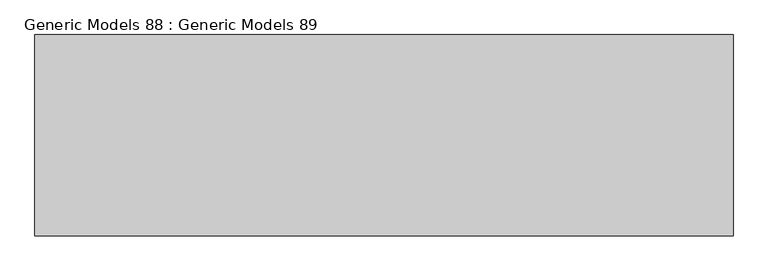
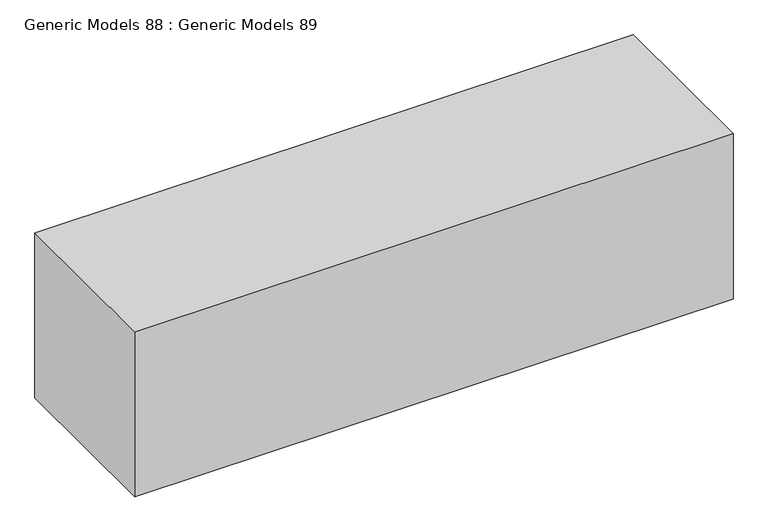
"""IFC4 building model written with IfcOpenShell, lengths in millimetres: proxy geometry, Generic Models 88 : Generic Models 89."""

from ifc_helpers import new_model, si_unit, origin, place, context, project, spatial, faceted_brep, source, transform, mapped, element, save


def generic_models_88_generic_models_89_85bccc3d(model_context):
    return source(origin(), model_context, "Body", "Brep", [
        faceted_brep([(59913.7306909, -9578.2334442, 850.0), (59913.7306909, -9924.5725574, 850.0), (61113.7306909, -9924.5725574, 850.0), (61113.7306909, -9578.2334442, 850.0), (59913.7306909, -9578.2334442, 500.0), (61113.7306909, -9578.2334442, 500.0), (61113.7306909, -9924.5725574, 500.0), (59913.7306909, -9924.5725574, 500.0), (60593.7306909, -9578.2334442, 818.5567437), (60593.7306909, -9578.2334442, 530.1218092), (61082.1518136, -9578.2334442, 530.1218092), (61082.1518136, -9578.2334442, 818.5567437), (59942.8260514, -9578.2334442, 528.3898917), (60573.7306909, -9578.2334442, 528.3898917), (60573.7306909, -9578.2334442, 818.5567437), (59942.8260514, -9578.2334442, 818.5567437), (60597.7306909, -9578.2334442, 814.5567437), (61078.1518136, -9578.2334442, 814.5567437), (61078.1518136, -9578.2334442, 534.1218092), (60597.7306909, -9578.2334442, 534.1218092), (60593.7306909, -9581.2334442, 818.5567437), (61082.1518136, -9581.2334442, 818.5567437), (61082.1518136, -9581.2334442, 530.1218092), (60593.7306909, -9581.2334442, 530.1218092), (60597.7306909, -9581.2334442, 814.5567437), (60597.7306909, -9581.2334442, 534.1218092), (61078.1518136, -9581.2334442, 534.1218092), (61078.1518136, -9581.2334442, 814.5567437), (60573.7306909, -9810.5232908, 528.3898917), (60573.7306909, -9810.5232908, 818.5567437), (59942.8260514, -9810.5232908, 818.5567437), (59942.8260514, -9810.5232908, 528.3898917)], [[[0, 1, 2, 3]], [[4, 5, 6, 7]], [[1, 0, 4, 7]], [[2, 1, 7, 6]], [[3, 2, 6, 5]], [[0, 3, 5, 4], [8, 9, 10, 11], [12, 13, 14, 15]], [[16, 17, 18, 19]], [[20, 21, 22, 23], [24, 25, 26, 27]], [[20, 23, 9, 8]], [[23, 22, 10, 9]], [[22, 21, 11, 10]], [[21, 20, 8, 11]], [[24, 27, 17, 16]], [[27, 26, 18, 17]], [[26, 25, 19, 18]], [[25, 24, 16, 19]], [[28, 29, 14, 13]], [[30, 31, 12, 15]], [[30, 29, 28, 31]], [[31, 28, 13, 12]], [[29, 30, 15, 14]]]),
    ])


if __name__ == "__main__":
    model = new_model("IFC4")
    model_context = context("Model", 3, world=origin())
    ifc_project = project(units=[si_unit("LENGTHUNIT", "METRE", prefix="MILLI")], contexts=[model_context])
    site = spatial("IfcSite", under=ifc_project)
    building = spatial("IfcBuilding", under=site)
    placement = place(None, origin())
    generic_models_88_generic_models_89_shape = generic_models_88_generic_models_89_85bccc3d(model_context)
    element("IfcBuildingElementProxy", 1, Name="Generic Models 88 : Generic Models 89", ObjectType="Generic Models 88 : Generic Models 89", at=placement, inside=building, context=model_context, shape_type="MappedRepresentation", body=[
        mapped(generic_models_88_generic_models_89_shape, transform((0.0, 0.0, 0.0), x_axis=(1.0, 0.0, 0.0), y_axis=(0.0, 1.0, 0.0), z_axis=(0.0, 0.0, 1.0))),
    ])
    save(model, "model.ifc")
